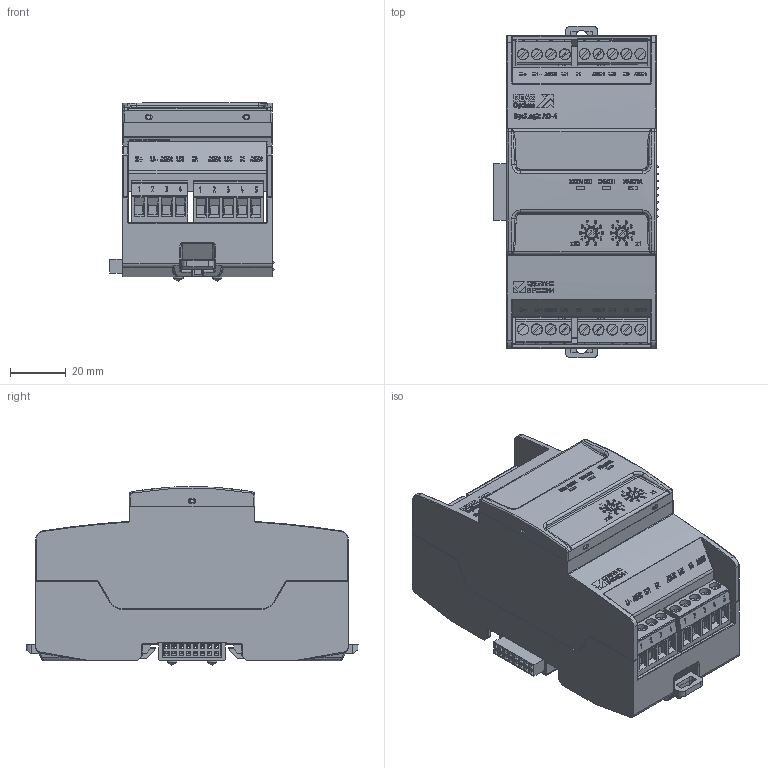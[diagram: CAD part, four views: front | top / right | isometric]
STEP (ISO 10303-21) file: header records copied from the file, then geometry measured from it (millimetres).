
FILE_DESCRIPTION (( 'STEP AP214' ), '1' );
FILE_NAME ('AO-4.STEP', '2020-11-06T11:38:43', ( '' ), ( '' ), 'SwSTEP 2.0', 'SolidWorks 2018', '' );
FILE_SCHEMA (( 'AUTOMOTIVE_DESIGN' ));
Length unit declared in the file: millimetre
Products named in the file (1): AO-4
Bounding box: 58.87 x 119 x 64.1 mm (x, y, z)
Surface area: 52461.6 mm2 (no closed solid volume)
Topology: 0 solids, 279 shells, 1741 faces, 11422 edges, 9835 vertices
Faces by surface type: plane 1032, cylinder 464, torus 107, bspline 71, sphere 35, cone 32
Full cylindrical faces by diameter (mm): 0.5 x1, 0.609 x2, 1.4 x3, 2.8 x2, 3.5 x2, 4 x22, 5.5 x1
Entity records: 144746 total; most frequent: CARTESIAN_POINT 47218, ORIENTED_EDGE 14163, DIRECTION 13898, EDGE_CURVE 11328, VERTEX_POINT 9821, LINE 6004, VECTOR 6004, AXIS2_PLACEMENT_3D 3947
